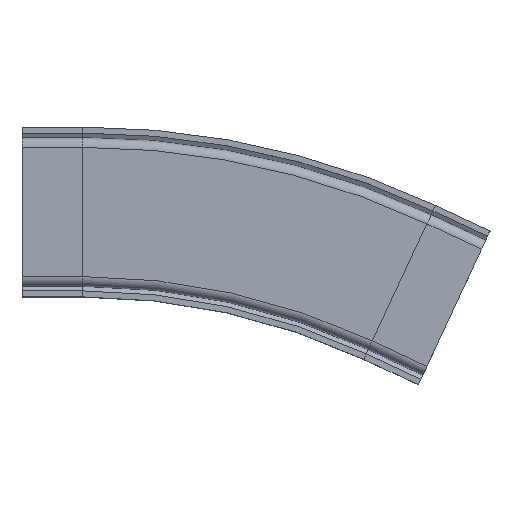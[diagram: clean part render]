
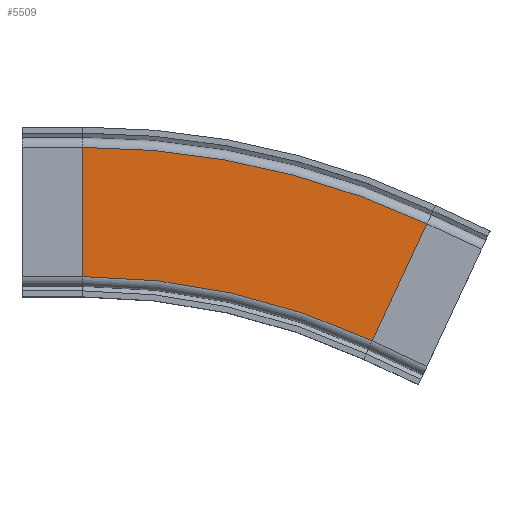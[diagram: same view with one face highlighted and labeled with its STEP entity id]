
A CAD part, top view. The second image highlights one B-rep face of the part: STEP entity #5509.
In plain terms, the highlighted planar face has unit normal (0, 0, 1).
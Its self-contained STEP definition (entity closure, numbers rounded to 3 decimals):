
#83 = PLANE ( 'NONE',  #202 ) ;
#145 = CARTESIAN_POINT ( 'NONE',  ( 269.482, -7.875, 42.5 ) ) ;
#175 = DIRECTION ( 'NONE',  ( 1., 0., 0. ) ) ;
#202 = AXIS2_PLACEMENT_3D ( 'NONE', #3572, #2222, #1796 ) ;
#270 = DIRECTION ( 'NONE',  ( 0.423, 0.906, 0. ) ) ;
#333 = VERTEX_POINT ( 'NONE', #887 ) ;
#373 = CARTESIAN_POINT ( 'NONE',  ( 233.137, -85.817, 42.5 ) ) ;
#633 = LINE ( 'NONE', #2824, #1513 ) ;
#649 = DIRECTION ( 'NONE',  ( 0., 0., 1. ) ) ;
#652 = EDGE_CURVE ( 'NONE', #5456, #333, #880, .T. ) ;
#880 = CIRCLE ( 'NONE', #2085, 457. ) ;
#887 = CARTESIAN_POINT ( 'NONE',  ( 40., -43., 42.5 ) ) ;
#1205 = ORIENTED_EDGE ( 'NONE', *, *, #3767, .T. ) ;
#1513 = VECTOR ( 'NONE', #4176, 1000. ) ;
#1687 = FACE_OUTER_BOUND ( 'NONE', #1986, .T. ) ;
#1796 = DIRECTION ( 'NONE',  ( -1., 0., 0. ) ) ;
#1857 = CIRCLE ( 'NONE', #2025, 543. ) ;
#1986 = EDGE_LOOP ( 'NONE', ( #1205, #4754, #3962, #5225 ) ) ;
#2025 = AXIS2_PLACEMENT_3D ( 'NONE', #3751, #649, #175 ) ;
#2085 = AXIS2_PLACEMENT_3D ( 'NONE', #2690, #3496, #4835 ) ;
#2222 = DIRECTION ( 'NONE',  ( 0., 0., -1. ) ) ;
#2690 = CARTESIAN_POINT ( 'NONE',  ( 40., -500., 42.5 ) ) ;
#2824 = CARTESIAN_POINT ( 'NONE',  ( 40., 0., 42.5 ) ) ;
#3266 = VECTOR ( 'NONE', #270, 1000. ) ;
#3496 = DIRECTION ( 'NONE',  ( 0., 0., 1. ) ) ;
#3572 = CARTESIAN_POINT ( 'NONE',  ( 233.137, -85.817, 42.5 ) ) ;
#3751 = CARTESIAN_POINT ( 'NONE',  ( 40., -500., 42.5 ) ) ;
#3763 = EDGE_CURVE ( 'NONE', #5581, #4452, #1857, .T. ) ;
#3767 = EDGE_CURVE ( 'NONE', #4452, #333, #633, .T. ) ;
#3962 = ORIENTED_EDGE ( 'NONE', *, *, #5055, .T. ) ;
#4093 = LINE ( 'NONE', #5500, #3266 ) ;
#4176 = DIRECTION ( 'NONE',  ( 0., -1., 0. ) ) ;
#4452 = VERTEX_POINT ( 'NONE', #5440 ) ;
#4754 = ORIENTED_EDGE ( 'NONE', *, *, #652, .F. ) ;
#4835 = DIRECTION ( 'NONE',  ( 1., 0., 0. ) ) ;
#5055 = EDGE_CURVE ( 'NONE', #5456, #5581, #4093, .T. ) ;
#5225 = ORIENTED_EDGE ( 'NONE', *, *, #3763, .T. ) ;
#5440 = CARTESIAN_POINT ( 'NONE',  ( 40., 43., 42.5 ) ) ;
#5456 = VERTEX_POINT ( 'NONE', #373 ) ;
#5500 = CARTESIAN_POINT ( 'NONE',  ( 233.137, -85.817, 42.5 ) ) ;
#5509 = ADVANCED_FACE ( 'NONE', ( #1687 ), #83, .F. ) ;
#5581 = VERTEX_POINT ( 'NONE', #145 ) ;
